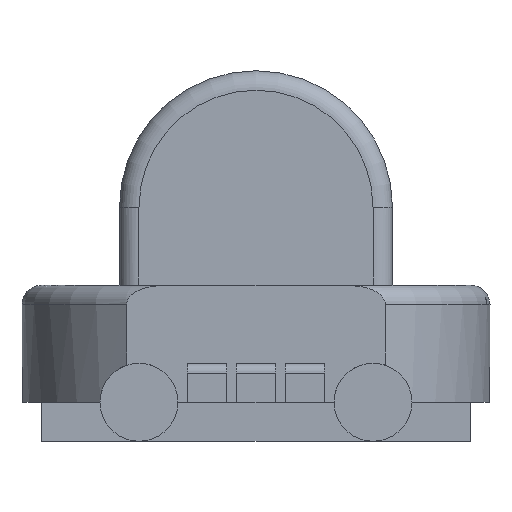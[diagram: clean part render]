
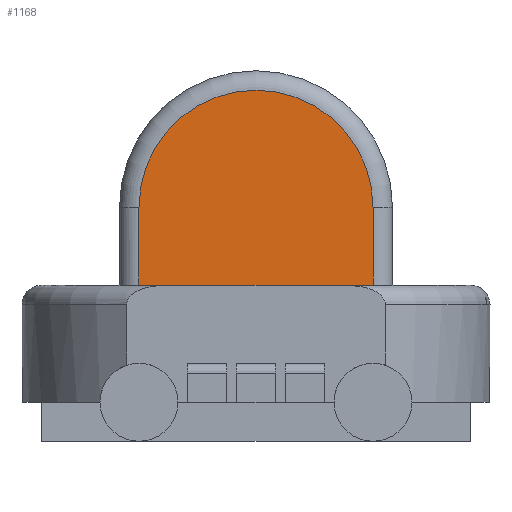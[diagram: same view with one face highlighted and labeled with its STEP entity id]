
A CAD part, front view. The second image highlights one B-rep face of the part: STEP entity #1168.
In plain terms, the highlighted planar face has unit normal (0, -1, 0).
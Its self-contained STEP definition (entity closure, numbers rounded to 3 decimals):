
#23=B_SPLINE_CURVE_WITH_KNOTS('',3,(#1875,#1876,#1877,#1878,#1879,#1880),
 .UNSPECIFIED.,.F.,.F.,(4,2,4),(0.388,0.405,0.456),
 .UNSPECIFIED.);
#26=B_SPLINE_CURVE_WITH_KNOTS('',3,(#1923,#1924,#1925,#1926,#1927,#1928),
 .UNSPECIFIED.,.F.,.F.,(4,2,4),(0.222,0.273,0.29),
 .UNSPECIFIED.);
#56=PLANE('',#1284);
#112=FACE_OUTER_BOUND('',#180,.T.);
#180=EDGE_LOOP('',(#933,#934,#935,#936,#937,#938));
#272=LINE('',#1943,#372);
#273=LINE('',#1947,#373);
#275=LINE('',#1958,#375);
#372=VECTOR('',#1527,10.);
#373=VECTOR('',#1532,10.);
#375=VECTOR('',#1546,10.);
#447=CIRCLE('',#1281,3.);
#531=VERTEX_POINT('',#1872);
#532=VERTEX_POINT('',#1874);
#541=VERTEX_POINT('',#1921);
#542=VERTEX_POINT('',#1922);
#544=VERTEX_POINT('',#1946);
#545=VERTEX_POINT('',#1950);
#666=EDGE_CURVE('',#531,#532,#23,.F.);
#678=EDGE_CURVE('',#541,#542,#26,.T.);
#682=EDGE_CURVE('',#541,#531,#272,.T.);
#684=EDGE_CURVE('',#532,#544,#273,.T.);
#687=EDGE_CURVE('',#544,#545,#447,.T.);
#690=EDGE_CURVE('',#545,#542,#275,.T.);
#933=ORIENTED_EDGE('',*,*,#690,.F.);
#934=ORIENTED_EDGE('',*,*,#687,.F.);
#935=ORIENTED_EDGE('',*,*,#684,.F.);
#936=ORIENTED_EDGE('',*,*,#666,.F.);
#937=ORIENTED_EDGE('',*,*,#682,.F.);
#938=ORIENTED_EDGE('',*,*,#678,.T.);
#1168=ADVANCED_FACE('',(#112),#56,.T.);
#1281=AXIS2_PLACEMENT_3D('',#1952,#1539,#1540);
#1284=AXIS2_PLACEMENT_3D('',#1960,#1548,#1549);
#1527=DIRECTION('',(-1.,0.,0.));
#1532=DIRECTION('',(0.,0.,1.));
#1539=DIRECTION('center_axis',(0.,1.,0.));
#1540=DIRECTION('ref_axis',(0.,0.,1.));
#1546=DIRECTION('',(0.,0.,-1.));
#1548=DIRECTION('center_axis',(0.,-1.,0.));
#1549=DIRECTION('ref_axis',(1.,0.,0.));
#1872=CARTESIAN_POINT('',(-2.291,14.,4.));
#1874=CARTESIAN_POINT('',(-3.,14.,3.875));
#1875=CARTESIAN_POINT('Ctrl Pts',(-3.,14.,3.875));
#1876=CARTESIAN_POINT('Ctrl Pts',(-2.944,14.,3.9));
#1877=CARTESIAN_POINT('Ctrl Pts',(-2.885,14.,3.92));
#1878=CARTESIAN_POINT('Ctrl Pts',(-2.666,14.,3.981));
#1879=CARTESIAN_POINT('Ctrl Pts',(-2.462,14.,4.));
#1880=CARTESIAN_POINT('Ctrl Pts',(-2.291,14.,4.));
#1921=CARTESIAN_POINT('',(2.291,14.,4.));
#1922=CARTESIAN_POINT('',(3.,14.,3.875));
#1923=CARTESIAN_POINT('Ctrl Pts',(2.291,14.,4.));
#1924=CARTESIAN_POINT('Ctrl Pts',(2.462,14.,4.));
#1925=CARTESIAN_POINT('Ctrl Pts',(2.666,14.,3.981));
#1926=CARTESIAN_POINT('Ctrl Pts',(2.885,14.,3.92));
#1927=CARTESIAN_POINT('Ctrl Pts',(2.944,14.,3.9));
#1928=CARTESIAN_POINT('Ctrl Pts',(3.,14.,3.875));
#1943=CARTESIAN_POINT('',(0.,14.,4.));
#1946=CARTESIAN_POINT('',(-3.,14.,6.));
#1947=CARTESIAN_POINT('',(-3.,14.,1.));
#1950=CARTESIAN_POINT('',(3.,14.,6.));
#1952=CARTESIAN_POINT('Origin',(0.,14.,6.));
#1958=CARTESIAN_POINT('',(3.,14.,1.));
#1960=CARTESIAN_POINT('Origin',(-3.5,14.,1.));
